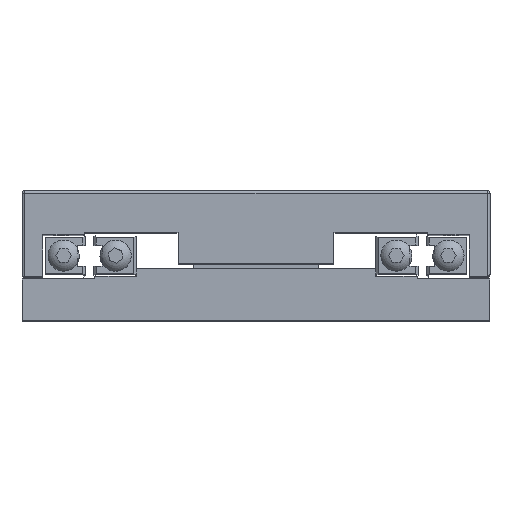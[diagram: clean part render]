
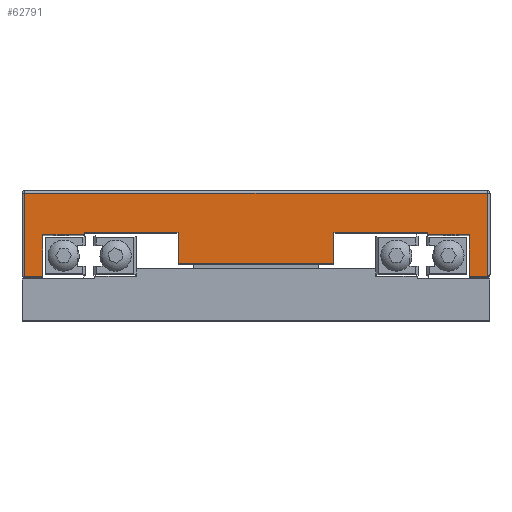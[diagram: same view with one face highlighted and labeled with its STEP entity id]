
A CAD part, top view. The second image highlights one B-rep face of the part: STEP entity #62791.
In plain terms, the highlighted planar face has unit normal (0, 0, 1).
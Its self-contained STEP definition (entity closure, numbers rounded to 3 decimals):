
#10112 = LINE ( 'NONE', #164472, #10120 ) ;
#10120 = VECTOR ( 'NONE', #164486, 1000. ) ;
#10132 = LINE ( 'NONE', #164517, #10137 ) ;
#10137 = VECTOR ( 'NONE', #164511, 1000. ) ;
#10146 = LINE ( 'NONE', #164527, #10150 ) ;
#10150 = VECTOR ( 'NONE', #164535, 1000. ) ;
#10156 = LINE ( 'NONE', #164551, #10159 ) ;
#10159 = VECTOR ( 'NONE', #164558, 1000. ) ;
#10160 = LINE ( 'NONE', #164570, #10169 ) ;
#10169 = VECTOR ( 'NONE', #164580, 1000. ) ;
#10191 = LINE ( 'NONE', #164616, #10193 ) ;
#10193 = VECTOR ( 'NONE', #164622, 1000. ) ;
#10208 = LINE ( 'NONE', #164648, #10209 ) ;
#10209 = VECTOR ( 'NONE', #164644, 1000. ) ;
#10225 = LINE ( 'NONE', #164678, #10229 ) ;
#10229 = VECTOR ( 'NONE', #164689, 1000. ) ;
#10233 = LINE ( 'NONE', #164691, #10237 ) ;
#10234 = LINE ( 'NONE', #164694, #10236 ) ;
#10236 = VECTOR ( 'NONE', #164702, 1000. ) ;
#10237 = VECTOR ( 'NONE', #164701, 1000. ) ;
#10255 = LINE ( 'NONE', #164735, #10259 ) ;
#10259 = VECTOR ( 'NONE', #164747, 1000. ) ;
#10394 = LINE ( 'NONE', #165042, #10397 ) ;
#10397 = VECTOR ( 'NONE', #165043, 1000. ) ;
#10417 = LINE ( 'NONE', #165073, #10419 ) ;
#10419 = VECTOR ( 'NONE', #165067, 1000. ) ;
#10438 = LINE ( 'NONE', #165093, #10440 ) ;
#10440 = VECTOR ( 'NONE', #165113, 1000. ) ;
#10461 = LINE ( 'NONE', #165950, #10463 ) ;
#10463 = VECTOR ( 'NONE', #165955, 1000. ) ;
#10471 = LINE ( 'NONE', #165993, #10473 ) ;
#10473 = VECTOR ( 'NONE', #166030, 1000. ) ;
#20730 = ORIENTED_EDGE ( 'NONE', *, *, #43894, .F. ) ;
#20731 = ORIENTED_EDGE ( 'NONE', *, *, #44088, .F. ) ;
#20732 = ORIENTED_EDGE ( 'NONE', *, *, #44214, .F. ) ;
#20733 = ORIENTED_EDGE ( 'NONE', *, *, #44345, .F. ) ;
#20734 = ORIENTED_EDGE ( 'NONE', *, *, #44220, .F. ) ;
#20735 = ORIENTED_EDGE ( 'NONE', *, *, #43787, .F. ) ;
#20736 = ORIENTED_EDGE ( 'NONE', *, *, #43642, .F. ) ;
#20737 = ORIENTED_EDGE ( 'NONE', *, *, #44177, .F. ) ;
#20738 = ORIENTED_EDGE ( 'NONE', *, *, #43843, .F. ) ;
#20739 = ORIENTED_EDGE ( 'NONE', *, *, #45401, .F. ) ;
#20740 = ORIENTED_EDGE ( 'NONE', *, *, #45343, .F. ) ;
#20741 = ORIENTED_EDGE ( 'NONE', *, *, #45156, .T. ) ;
#20742 = ORIENTED_EDGE ( 'NONE', *, *, #45047, .T. ) ;
#20743 = ORIENTED_EDGE ( 'NONE', *, *, #43997, .T. ) ;
#20744 = ORIENTED_EDGE ( 'NONE', *, *, #43735, .T. ) ;
#20745 = ORIENTED_EDGE ( 'NONE', *, *, #45242, .T. ) ;
#43642 = EDGE_CURVE ( 'NONE', #84586, #137113, #10112, .T. ) ;
#43735 = EDGE_CURVE ( 'NONE', #136687, #85017, #10132, .T. ) ;
#43787 = EDGE_CURVE ( 'NONE', #137108, #84586, #10146, .T. ) ;
#43843 = EDGE_CURVE ( 'NONE', #137127, #136917, #10156, .T. ) ;
#43894 = EDGE_CURVE ( 'NONE', #136889, #136692, #10160, .T. ) ;
#43997 = EDGE_CURVE ( 'NONE', #85017, #84961, #10191, .T. ) ;
#44088 = EDGE_CURVE ( 'NONE', #136692, #85112, #10208, .T. ) ;
#44177 = EDGE_CURVE ( 'NONE', #137113, #137127, #10225, .T. ) ;
#44214 = EDGE_CURVE ( 'NONE', #85112, #136949, #10233, .T. ) ;
#44220 = EDGE_CURVE ( 'NONE', #137111, #137108, #10234, .T. ) ;
#44345 = EDGE_CURVE ( 'NONE', #136949, #137111, #10255, .T. ) ;
#45047 = EDGE_CURVE ( 'NONE', #84961, #136663, #10394, .T. ) ;
#45156 = EDGE_CURVE ( 'NONE', #136663, #84946, #10417, .T. ) ;
#45242 = EDGE_CURVE ( 'NONE', #136889, #136687, #10438, .T. ) ;
#45343 = EDGE_CURVE ( 'NONE', #85122, #84946, #10461, .T. ) ;
#45401 = EDGE_CURVE ( 'NONE', #136917, #85122, #10471, .T. ) ;
#61366 = EDGE_LOOP ( 'NONE', ( #20745, #20744, #20743, #20742, #20741, #20740, #20739, #20738, #20737, #20736, #20735, #20734, #20733, #20732, #20731, #20730 ) ) ;
#62791 = ADVANCED_FACE ( 'NONE', ( #133096 ), #90315, .F. ) ;
#79197 = CARTESIAN_POINT ( 'NONE',  ( -67.238, -18.206, 90. ) ) ;
#79214 = CARTESIAN_POINT ( 'NONE',  ( 21.762, -18.206, 90. ) ) ;
#79217 = CARTESIAN_POINT ( 'NONE',  ( 18.262, -10.206, 90. ) ) ;
#79404 = CARTESIAN_POINT ( 'NONE',  ( 18.262, -18.206, 90. ) ) ;
#79447 = CARTESIAN_POINT ( 'NONE',  ( -55.738, -10.206, 90. ) ) ;
#79496 = CARTESIAN_POINT ( 'NONE',  ( 10.262, -9.706, 90. ) ) ;
#79698 = CARTESIAN_POINT ( 'NONE',  ( -7.738, -15.706, 90. ) ) ;
#79701 = CARTESIAN_POINT ( 'NONE',  ( -7.738, -9.706, 90. ) ) ;
#79703 = CARTESIAN_POINT ( 'NONE',  ( -37.738, -9.706, 90. ) ) ;
#79717 = CARTESIAN_POINT ( 'NONE',  ( -55.738, -9.706, 90. ) ) ;
#84586 = VERTEX_POINT ( 'NONE', #90931 ) ;
#84946 = VERTEX_POINT ( 'NONE', #91151 ) ;
#84961 = VERTEX_POINT ( 'NONE', #91162 ) ;
#85017 = VERTEX_POINT ( 'NONE', #91199 ) ;
#85112 = VERTEX_POINT ( 'NONE', #91253 ) ;
#85122 = VERTEX_POINT ( 'NONE', #91260 ) ;
#90312 = CARTESIAN_POINT ( 'NONE',  ( -22.738, -9.956, 90. ) ) ;
#90315 = PLANE ( 'NONE',  #182550 ) ;
#90319 = DIRECTION ( 'NONE',  ( 0., 0., -1. ) ) ;
#90321 = DIRECTION ( 'NONE',  ( -1., 0., 0. ) ) ;
#90931 = CARTESIAN_POINT ( 'NONE',  ( -37.738, -15.706, 90. ) ) ;
#91151 = CARTESIAN_POINT ( 'NONE',  ( -63.738, -18.206, 90. ) ) ;
#91162 = CARTESIAN_POINT ( 'NONE',  ( -67.238, -2.206, 90. ) ) ;
#91199 = CARTESIAN_POINT ( 'NONE',  ( 21.762, -2.206, 90. ) ) ;
#91253 = CARTESIAN_POINT ( 'NONE',  ( 10.262, -10.206, 90. ) ) ;
#91260 = CARTESIAN_POINT ( 'NONE',  ( -63.738, -10.206, 90. ) ) ;
#133096 = FACE_OUTER_BOUND ( 'NONE', #61366, .T. ) ;
#136663 = VERTEX_POINT ( 'NONE', #79197 ) ;
#136687 = VERTEX_POINT ( 'NONE', #79214 ) ;
#136692 = VERTEX_POINT ( 'NONE', #79217 ) ;
#136889 = VERTEX_POINT ( 'NONE', #79404 ) ;
#136917 = VERTEX_POINT ( 'NONE', #79447 ) ;
#136949 = VERTEX_POINT ( 'NONE', #79496 ) ;
#137108 = VERTEX_POINT ( 'NONE', #79698 ) ;
#137111 = VERTEX_POINT ( 'NONE', #79701 ) ;
#137113 = VERTEX_POINT ( 'NONE', #79703 ) ;
#137127 = VERTEX_POINT ( 'NONE', #79717 ) ;
#164472 = CARTESIAN_POINT ( 'NONE',  ( -37.738, -9.706, 90. ) ) ;
#164486 = DIRECTION ( 'NONE',  ( 0., 1., 0. ) ) ;
#164511 = DIRECTION ( 'NONE',  ( 0., 1., 0. ) ) ;
#164517 = CARTESIAN_POINT ( 'NONE',  ( 21.762, -9.956, 90. ) ) ;
#164527 = CARTESIAN_POINT ( 'NONE',  ( -37.738, -15.706, 90. ) ) ;
#164535 = DIRECTION ( 'NONE',  ( -1., 0., 0. ) ) ;
#164551 = CARTESIAN_POINT ( 'NONE',  ( -55.738, -10.206, 90. ) ) ;
#164558 = DIRECTION ( 'NONE',  ( 0., -1., 0. ) ) ;
#164570 = CARTESIAN_POINT ( 'NONE',  ( 18.262, -10.206, 90. ) ) ;
#164580 = DIRECTION ( 'NONE',  ( 0., 1., 0. ) ) ;
#164616 = CARTESIAN_POINT ( 'NONE',  ( -22.738, -2.206, 90. ) ) ;
#164622 = DIRECTION ( 'NONE',  ( -1., 0., 0. ) ) ;
#164644 = DIRECTION ( 'NONE',  ( -1., 0., 0. ) ) ;
#164648 = CARTESIAN_POINT ( 'NONE',  ( 10.262, -10.206, 90. ) ) ;
#164678 = CARTESIAN_POINT ( 'NONE',  ( -55.738, -9.706, 90. ) ) ;
#164689 = DIRECTION ( 'NONE',  ( -1., 0., 0. ) ) ;
#164691 = CARTESIAN_POINT ( 'NONE',  ( 10.262, -9.706, 90. ) ) ;
#164694 = CARTESIAN_POINT ( 'NONE',  ( -7.738, -15.706, 90. ) ) ;
#164701 = DIRECTION ( 'NONE',  ( 0., 1., 0. ) ) ;
#164702 = DIRECTION ( 'NONE',  ( 0., -1., 0. ) ) ;
#164735 = CARTESIAN_POINT ( 'NONE',  ( -7.738, -9.706, 90. ) ) ;
#164747 = DIRECTION ( 'NONE',  ( -1., 0., 0. ) ) ;
#165042 = CARTESIAN_POINT ( 'NONE',  ( -67.238, -9.956, 90. ) ) ;
#165043 = DIRECTION ( 'NONE',  ( 0., -1., 0. ) ) ;
#165067 = DIRECTION ( 'NONE',  ( 1., 0., 0. ) ) ;
#165073 = CARTESIAN_POINT ( 'NONE',  ( -67.738, -18.206, 90. ) ) ;
#165093 = CARTESIAN_POINT ( 'NONE',  ( -67.738, -18.206, 90. ) ) ;
#165113 = DIRECTION ( 'NONE',  ( 1., 0., 0. ) ) ;
#165950 = CARTESIAN_POINT ( 'NONE',  ( -63.738, -18.206, 90. ) ) ;
#165955 = DIRECTION ( 'NONE',  ( 0., -1., 0. ) ) ;
#165993 = CARTESIAN_POINT ( 'NONE',  ( -63.738, -10.206, 90. ) ) ;
#166030 = DIRECTION ( 'NONE',  ( -1., 0., 0. ) ) ;
#182550 = AXIS2_PLACEMENT_3D ( 'NONE', #90312, #90319, #90321 ) ;
